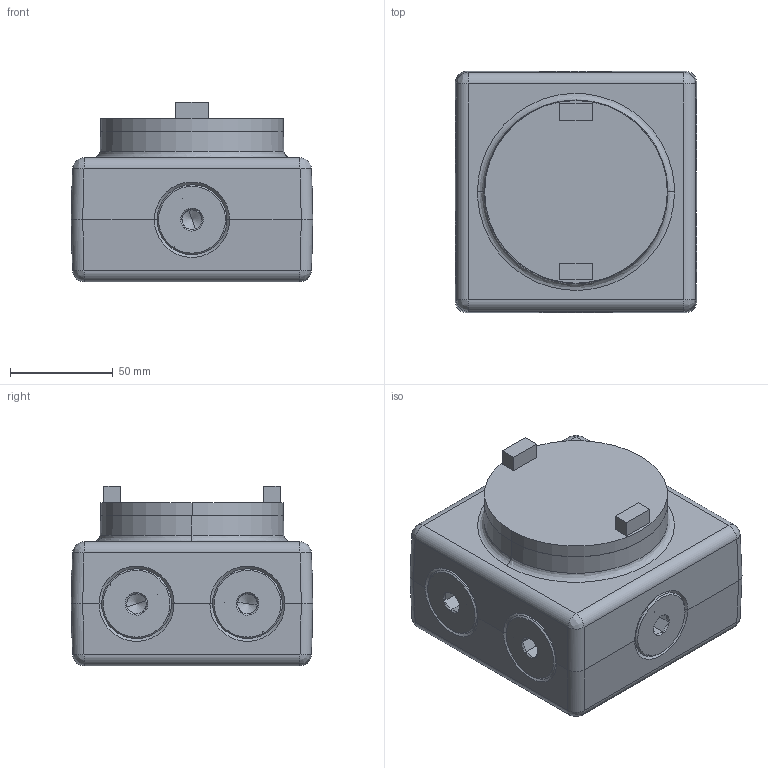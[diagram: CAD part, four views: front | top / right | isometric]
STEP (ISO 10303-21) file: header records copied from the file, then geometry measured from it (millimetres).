
FILE_DESCRIPTION (( 'STEP AP214' ), '1' );
FILE_NAME ('EPJ-6-1IN.STEP', '2021-03-25T21:20:10', ( '' ), ( '' ), 'SwSTEP 2.0', 'SolidWorks 2020', '' );
FILE_SCHEMA (( 'AUTOMOTIVE_DESIGN' ));
Length unit declared in the file: inch
Products named in the file (12): 03538-1; GRSS-3 Body; GRRBC COVER; EPJ-6-1IN; 03538-1_2
Assembly tree (23 placements, depth 3):
  EPJ-6-1IN
    GRSS-3 Body
    03538-1
      03538-1
      03538-1_2
    03538-1
      03538-1
      03538-1_2
    03538-1
      03538-1
      03538-1_2
    03538-1
      03538-1
      03538-1_2
    03538-1
      03538-1
      03538-1_2
    03538-1
      03538-1
      03538-1_2
    03538-1
      03538-1
      03538-1_2
    GRRBC COVER
Bounding box: 117.53 x 117.53 x 87.34 mm (x, y, z)
Volume: 467418.6 mm3; surface area: 140657.3 mm2
Topology: 16 solids, 16 shells, 620 faces, 1439 edges, 845 vertices
Faces by surface type: plane 235, cylinder 179, bspline 120, cone 86
Entity records: 20946 total; most frequent: CARTESIAN_POINT 11532, ORIENTED_EDGE 1886, DIRECTION 1472, EDGE_CURVE 943, VERTEX_POINT 551, AXIS2_PLACEMENT_3D 537, EDGE_LOOP 410, VECTOR 398
